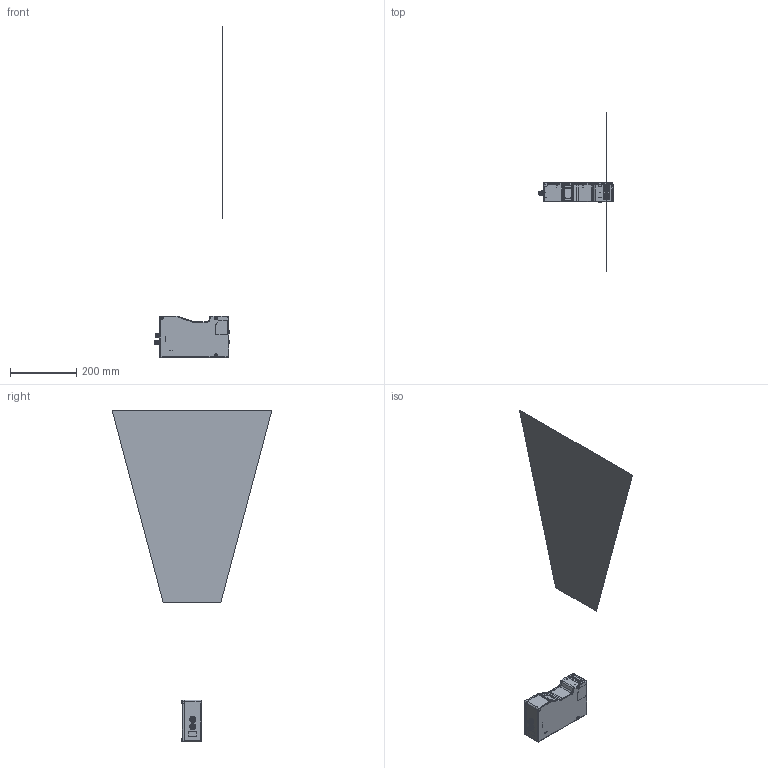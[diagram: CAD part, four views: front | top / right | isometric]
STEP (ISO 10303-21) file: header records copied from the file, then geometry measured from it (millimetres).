
FILE_DESCRIPTION((''),'2;1');
FILE_NAME('00-3580-ALL-01-03P-20250710','2025-07-22T10:30:40',('liudeting'),(''),'CREO PARAMETRIC BY PTC INC, 2020044','CREO PARAMETRIC BY PTC INC, 2020044','');
FILE_SCHEMA(('CONFIG_CONTROL_DESIGN'));
Products named in the file (1): 00-3580-ALL-01-03P-20250710
Bounding box: 224.1 x 482 x 1000.5 mm (x, y, z)
Surface area: 287497.5 mm2 (no closed solid volume)
Topology: 0 solids, 31 shells, 842 faces, 2654 edges, 1795 vertices
Faces by surface type: cylinder 270, plane 223, cone 220, torus 84, bspline 45
Entity records: 51741 total; most frequent: CARTESIAN_POINT 29148, DIRECTION 4603, ORIENTED_EDGE 4490, EDGE_CURVE 2621, VERTEX_POINT 1795, AXIS2_PLACEMENT_3D 1734, VECTOR 1135, LINE 1135
